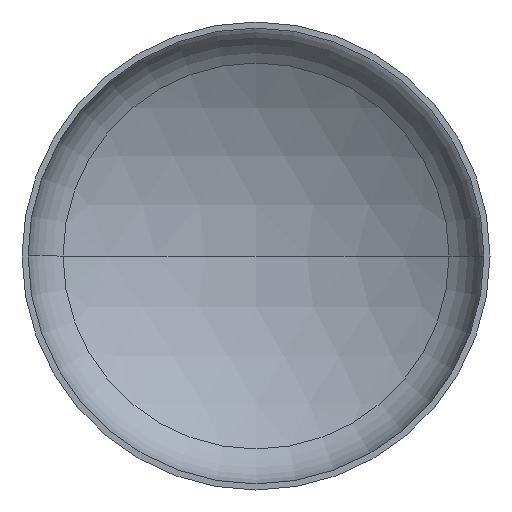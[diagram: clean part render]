
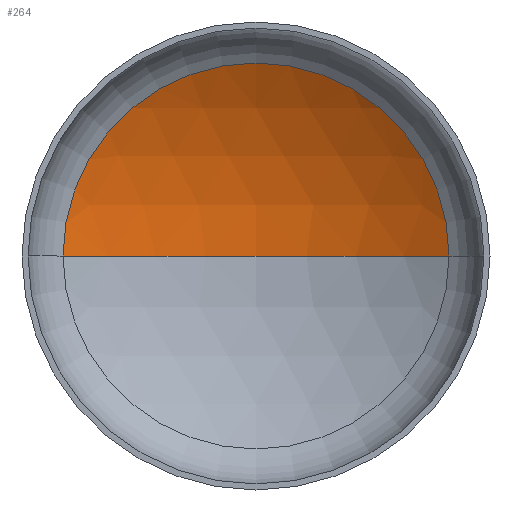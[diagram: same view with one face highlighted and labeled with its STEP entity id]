
A CAD part, front view. The second image highlights one B-rep face of the part: STEP entity #264.
In plain terms, the highlighted spherical face has radius 1920 mm.
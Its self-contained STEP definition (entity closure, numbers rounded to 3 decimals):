
#3 = CARTESIAN_POINT ( 'NONE',  ( 0., -1228.194, 0. ) ) ;
#11 = VERTEX_POINT ( 'NONE', #286 ) ;
#15 = CARTESIAN_POINT ( 'NONE',  ( -989.729, 417.053, 0. ) ) ;
#17 = AXIS2_PLACEMENT_3D ( 'NONE', #20, #282, #35 ) ;
#20 = CARTESIAN_POINT ( 'NONE',  ( 0., -1228.194, 0. ) ) ;
#26 = AXIS2_PLACEMENT_3D ( 'NONE', #3, #212, #143 ) ;
#27 = EDGE_LOOP ( 'NONE', ( #126, #130, #115 ) ) ;
#28 = AXIS2_PLACEMENT_3D ( 'NONE', #372, #197, #147 ) ;
#29 = AXIS2_PLACEMENT_3D ( 'NONE', #218, #220, #221 ) ;
#35 = DIRECTION ( 'NONE',  ( -1., 0., 0. ) ) ;
#61 = VERTEX_POINT ( 'NONE', #274 ) ;
#85 = SPHERICAL_SURFACE ( 'NONE', #17, 1920. ) ;
#97 = EDGE_CURVE ( 'NONE', #61, #113, #226, .T. ) ;
#98 = EDGE_CURVE ( 'NONE', #11, #61, #384, .T. ) ;
#99 = EDGE_CURVE ( 'NONE', #11, #113, #333, .T. ) ;
#113 = VERTEX_POINT ( 'NONE', #15 ) ;
#115 = ORIENTED_EDGE ( 'NONE', *, *, #97, .T. ) ;
#126 = ORIENTED_EDGE ( 'NONE', *, *, #99, .F. ) ;
#130 = ORIENTED_EDGE ( 'NONE', *, *, #98, .T. ) ;
#143 = DIRECTION ( 'NONE',  ( 1., 0., 0. ) ) ;
#147 = DIRECTION ( 'NONE',  ( -1., 0., 0. ) ) ;
#197 = DIRECTION ( 'NONE',  ( 0., 0., -1. ) ) ;
#212 = DIRECTION ( 'NONE',  ( 0., 0., 1. ) ) ;
#218 = CARTESIAN_POINT ( 'NONE',  ( 0., 417.053, 0. ) ) ;
#220 = DIRECTION ( 'NONE',  ( 0., -1., 0. ) ) ;
#221 = DIRECTION ( 'NONE',  ( 1., 0., 0. ) ) ;
#226 = CIRCLE ( 'NONE', #29, 989.729 ) ;
#264 = ADVANCED_FACE ( 'NONE', ( #380 ), #85, .F. ) ;
#274 = CARTESIAN_POINT ( 'NONE',  ( 989.729, 417.053, 0. ) ) ;
#282 = DIRECTION ( 'NONE',  ( 0., 0., -1. ) ) ;
#286 = CARTESIAN_POINT ( 'NONE',  ( 0., 691.806, 0. ) ) ;
#333 = CIRCLE ( 'NONE', #26, 1920. ) ;
#372 = CARTESIAN_POINT ( 'NONE',  ( 0., -1228.194, 0. ) ) ;
#380 = FACE_OUTER_BOUND ( 'NONE', #27, .T. ) ;
#384 = CIRCLE ( 'NONE', #28, 1920. ) ;
